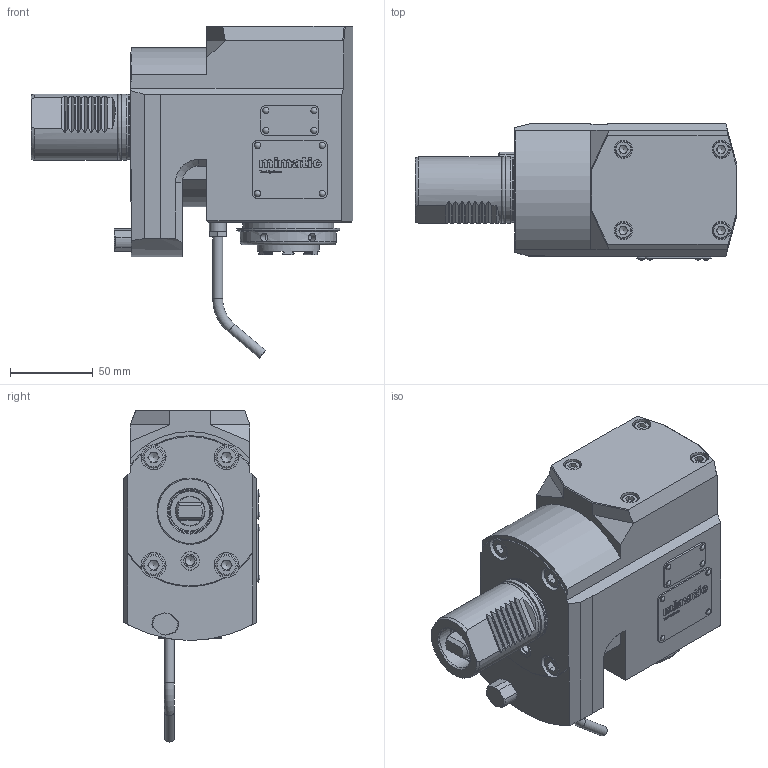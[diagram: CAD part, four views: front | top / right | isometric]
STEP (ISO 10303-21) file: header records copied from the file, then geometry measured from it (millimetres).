
FILE_DESCRIPTION(/* description */ (''),/* implementation_level */ '2;1');
FILE_NAME(/* name */ '192479',/* time_stamp */ '2020-02-25T14:32:24+01:00',/* author */ (''),/* organization */ (''),/* preprocessor_version */ 'ST-DEVELOPER v16.5',/* originating_system */ 'HiCAD 2017 2201.0 Build 268',/* authorisation */ '');
FILE_SCHEMA (('AUTOMOTIVE_DESIGN { 1 0 10303 214 1 1 1 1 }'));
Products named in the file (5): Root; Teil; ABCDEFGHIJKLMNOPQRSTUVWXYZ[\]^_`ABCDEFGHIJKLMNOP뱐趰ǝ; DIN 76-M8
Assembly tree (4 placements, depth 3):
  Root
    Teil
      ABCDEFGHIJKLMNOPQRSTUVWXYZ[\]^_`ABCDEFGHIJKLMNOP뱐趰ǝ
      ABCDEFGHIJKLMNOPQRSTUVWXYZ[\]^_`ABCDEFGHIJKLMNOP뱐趰ǝ
      DIN 76-M8
Bounding box: 194 x 82.3 x 200.17 mm (x, y, z)
Volume: 1225645.8 mm3; surface area: 111599.3 mm2
Topology: 5 solids, 18 shells, 861 faces, 2177 edges, 1422 vertices
Faces by surface type: plane 545, cylinder 201, cone 39, bspline 38, torus 30, sphere 8
Full cylindrical faces by diameter (mm): 2 x8, 2.2 x8, 4 x2, 5.1 x6, 6 x4, 6.8 x2, 7.5 x1, 7.65 x1, 8 x2, 8.773 x2, 9 x4, 10 x5, 11 x4, 11.01 x1, 11.1 x1, 13 x4, 15 x4, 18 x1, 23.5 x1, 24 x2, 26.5 x1, 27 x2, 29.4 x1, 36.5 x2, 37.5 x1, 38 x1, 38.16 x2, 38.4 x1, 39.4 x1, 40 x3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
Entity records: 57180 total; most frequent: CARTESIAN_POINT 14446, PRESENTATION_STYLE_ASSIGNMENT 4467, OVER_RIDING_STYLED_ITEM 4463, DRAUGHTING_PRE_DEFINED_CURVE_FONT 3952, CURVE_STYLE 3952, ORIENTED_EDGE 3952, COLOUR_RGB 3938, DIRECTION 3927
